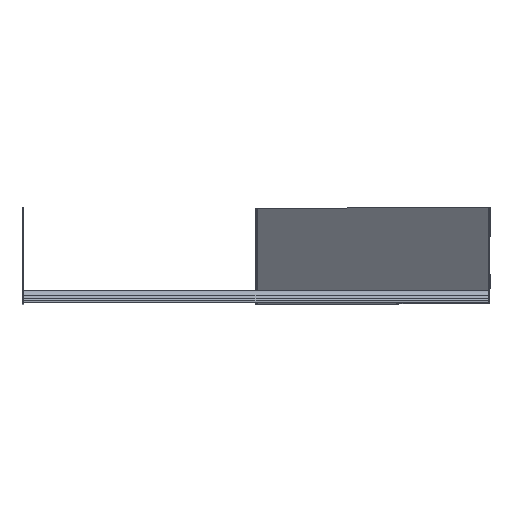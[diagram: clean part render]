
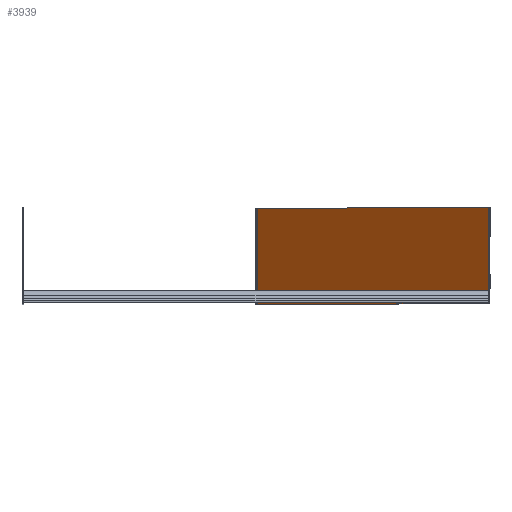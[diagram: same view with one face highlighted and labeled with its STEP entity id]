
A CAD part, top view. The second image highlights one B-rep face of the part: STEP entity #3939.
In plain terms, the highlighted planar face has unit normal (-0.682, 0, 0.731).
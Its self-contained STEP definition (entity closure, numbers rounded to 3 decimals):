
#152 = VECTOR ( 'NONE', #3735, 1000. ) ;
#159 = PLANE ( 'NONE',  #3802 ) ;
#621 = LINE ( 'NONE', #10574, #1743 ) ;
#663 = VECTOR ( 'NONE', #4397, 1000. ) ;
#866 = FACE_OUTER_BOUND ( 'NONE', #8526, .T. ) ;
#1171 = ORIENTED_EDGE ( 'NONE', *, *, #5884, .T. ) ;
#1566 = CARTESIAN_POINT ( 'NONE',  ( 449.523, 124., -0.445 ) ) ;
#1743 = VECTOR ( 'NONE', #3134, 1000. ) ;
#2314 = CARTESIAN_POINT ( 'NONE',  ( 449.523, 0., -0.445 ) ) ;
#2607 = DIRECTION ( 'NONE',  ( -0.682, 0., 0.731 ) ) ;
#3016 = CARTESIAN_POINT ( 'NONE',  ( 449.523, 0., -0.445 ) ) ;
#3134 = DIRECTION ( 'NONE',  ( 0., 1., 0. ) ) ;
#3353 = EDGE_CURVE ( 'NONE', #7963, #7799, #10317, .T. ) ;
#3473 = VERTEX_POINT ( 'NONE', #8214 ) ;
#3735 = DIRECTION ( 'NONE',  ( -0.731, 0., -0.682 ) ) ;
#3802 = AXIS2_PLACEMENT_3D ( 'NONE', #9280, #2607, #10051 ) ;
#3939 = ADVANCED_FACE ( 'NONE', ( #866 ), #159, .T. ) ;
#4397 = DIRECTION ( 'NONE',  ( -0.731, 0., -0.682 ) ) ;
#5884 = EDGE_CURVE ( 'NONE', #9884, #3473, #6675, .T. ) ;
#6250 = ORIENTED_EDGE ( 'NONE', *, *, #3353, .F. ) ;
#6665 = EDGE_CURVE ( 'NONE', #7799, #3473, #621, .T. ) ;
#6675 = LINE ( 'NONE', #10053, #663 ) ;
#6741 = ORIENTED_EDGE ( 'NONE', *, *, #10344, .T. ) ;
#7077 = VECTOR ( 'NONE', #7410, 1000. ) ;
#7410 = DIRECTION ( 'NONE',  ( 0., 1., 0. ) ) ;
#7799 = VERTEX_POINT ( 'NONE', #9375 ) ;
#7963 = VERTEX_POINT ( 'NONE', #3016 ) ;
#8214 = CARTESIAN_POINT ( 'NONE',  ( 151.112, 124., -278.962 ) ) ;
#8526 = EDGE_LOOP ( 'NONE', ( #10219, #6250, #6741, #1171 ) ) ;
#8785 = CARTESIAN_POINT ( 'NONE',  ( 450., 0., 0. ) ) ;
#9147 = LINE ( 'NONE', #2314, #7077 ) ;
#9280 = CARTESIAN_POINT ( 'NONE',  ( 450., 124., 0. ) ) ;
#9375 = CARTESIAN_POINT ( 'NONE',  ( 151.112, 0., -278.962 ) ) ;
#9884 = VERTEX_POINT ( 'NONE', #1566 ) ;
#10051 = DIRECTION ( 'NONE',  ( 0.731, 0., 0.682 ) ) ;
#10053 = CARTESIAN_POINT ( 'NONE',  ( 450., 124., 0. ) ) ;
#10219 = ORIENTED_EDGE ( 'NONE', *, *, #6665, .F. ) ;
#10317 = LINE ( 'NONE', #8785, #152 ) ;
#10344 = EDGE_CURVE ( 'NONE', #7963, #9884, #9147, .T. ) ;
#10574 = CARTESIAN_POINT ( 'NONE',  ( 151.112, 0., -278.962 ) ) ;
